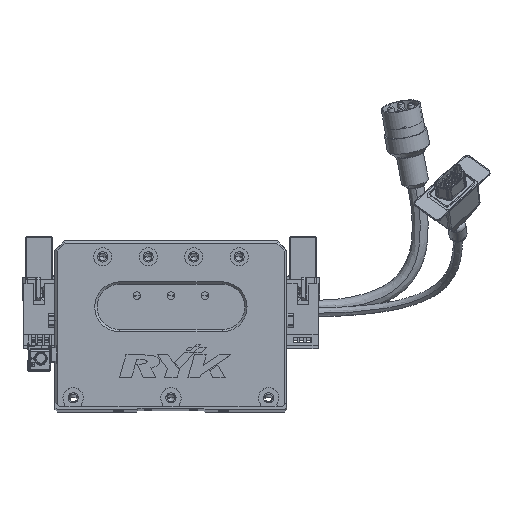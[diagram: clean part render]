
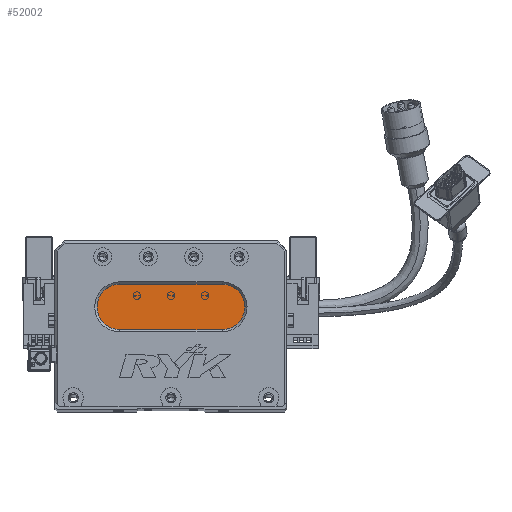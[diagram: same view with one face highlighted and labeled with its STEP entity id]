
A CAD part, top view. The second image highlights one B-rep face of the part: STEP entity #52002.
In plain terms, the highlighted planar face has unit normal (0, 0, 1) as drawn and (0, 0, -1) by its records, which use the part's own axes.
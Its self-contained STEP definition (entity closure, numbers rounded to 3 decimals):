
#1398 = CARTESIAN_POINT ( 'NONE',  ( 73.5, 34., 13. ) ) ;
#2935 = VECTOR ( 'NONE', #25452, 1000. ) ;
#4005 = EDGE_CURVE ( 'NONE', #33720, #48987, #13990, .T. ) ;
#5420 = CARTESIAN_POINT ( 'NONE',  ( 18.5, 44., 13. ) ) ;
#5714 = VERTEX_POINT ( 'NONE', #18686 ) ;
#5797 = ORIENTED_EDGE ( 'NONE', *, *, #43336, .T. ) ;
#6300 = DIRECTION ( 'NONE',  ( 0., 0., -1. ) ) ;
#6350 = EDGE_CURVE ( 'NONE', #29567, #8949, #41156, .T. ) ;
#8949 = VERTEX_POINT ( 'NONE', #49275 ) ;
#9216 = DIRECTION ( 'NONE',  ( -1., 0., 0. ) ) ;
#9438 = CIRCLE ( 'NONE', #23083, 10. ) ;
#10606 = AXIS2_PLACEMENT_3D ( 'NONE', #22674, #17499, #46572 ) ;
#13180 = ORIENTED_EDGE ( 'NONE', *, *, #36424, .T. ) ;
#13990 = LINE ( 'NONE', #1398, #22401 ) ;
#15105 = FACE_OUTER_BOUND ( 'NONE', #28299, .T. ) ;
#16912 = LINE ( 'NONE', #36095, #2935 ) ;
#16975 = DIRECTION ( 'NONE',  ( -1., 0., 0. ) ) ;
#17499 = DIRECTION ( 'NONE',  ( 0., 0., -1. ) ) ;
#18686 = CARTESIAN_POINT ( 'NONE',  ( 73.5, 54., 13. ) ) ;
#18720 = CARTESIAN_POINT ( 'NONE',  ( 28.5, 34., 13. ) ) ;
#18945 = DIRECTION ( 'NONE',  ( 0., 0., -1. ) ) ;
#20900 = ORIENTED_EDGE ( 'NONE', *, *, #27284, .T. ) ;
#22391 = DIRECTION ( 'NONE',  ( -1., 0., 0. ) ) ;
#22401 = VECTOR ( 'NONE', #16975, 1000. ) ;
#22674 = CARTESIAN_POINT ( 'NONE',  ( 73.5, 44., 13. ) ) ;
#23083 = AXIS2_PLACEMENT_3D ( 'NONE', #61190, #6300, #30747 ) ;
#23384 = AXIS2_PLACEMENT_3D ( 'NONE', #38651, #18945, #9216 ) ;
#25452 = DIRECTION ( 'NONE',  ( 1., 0., 0. ) ) ;
#27284 = EDGE_CURVE ( 'NONE', #48987, #29567, #9438, .T. ) ;
#27357 = DIRECTION ( 'NONE',  ( 0., 0., -1. ) ) ;
#28299 = EDGE_LOOP ( 'NONE', ( #5797, #60994, #20900, #37379, #13180 ) ) ;
#29567 = VERTEX_POINT ( 'NONE', #5420 ) ;
#30747 = DIRECTION ( 'NONE',  ( -1., 0., 0. ) ) ;
#33720 = VERTEX_POINT ( 'NONE', #41890 ) ;
#36095 = CARTESIAN_POINT ( 'NONE',  ( 73.5, 54., 13. ) ) ;
#36424 = EDGE_CURVE ( 'NONE', #8949, #5714, #16912, .T. ) ;
#37379 = ORIENTED_EDGE ( 'NONE', *, *, #6350, .T. ) ;
#38651 = CARTESIAN_POINT ( 'NONE',  ( 28.5, 44., 13. ) ) ;
#38699 = CIRCLE ( 'NONE', #55168, 10. ) ;
#41156 = CIRCLE ( 'NONE', #23384, 10. ) ;
#41890 = CARTESIAN_POINT ( 'NONE',  ( 73.5, 34., 13. ) ) ;
#43336 = EDGE_CURVE ( 'NONE', #5714, #33720, #38699, .T. ) ;
#46572 = DIRECTION ( 'NONE',  ( -1., 0., 0. ) ) ;
#48987 = VERTEX_POINT ( 'NONE', #18720 ) ;
#49275 = CARTESIAN_POINT ( 'NONE',  ( 28.5, 54., 13. ) ) ;
#52002 = ADVANCED_FACE ( 'NONE', ( #15105 ), #62219, .T. ) ;
#55168 = AXIS2_PLACEMENT_3D ( 'NONE', #56963, #27357, #22391 ) ;
#56963 = CARTESIAN_POINT ( 'NONE',  ( 73.5, 44., 13. ) ) ;
#60994 = ORIENTED_EDGE ( 'NONE', *, *, #4005, .T. ) ;
#61190 = CARTESIAN_POINT ( 'NONE',  ( 28.5, 44., 13. ) ) ;
#62219 = PLANE ( 'NONE',  #10606 ) ;
